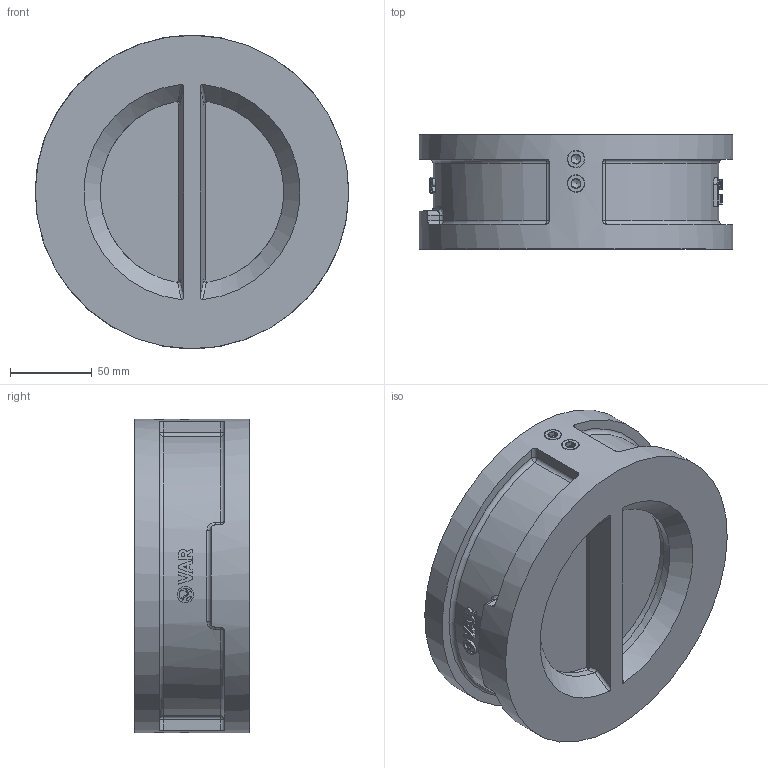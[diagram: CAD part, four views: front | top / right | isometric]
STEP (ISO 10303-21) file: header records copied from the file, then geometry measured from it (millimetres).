
FILE_DESCRIPTION(('STEP AP203'), '1');
FILE_NAME('VAR ZETKA 钺疣蝽 觌囡囗', '', ('UNSPECIFIED'), ('UNSPECIFIED'), 'C3D Converter', 'C3D Toolkit', '');
FILE_SCHEMA(('CONFIG_CONTROL_DESIGN'));
Length unit declared in the file: millimetre
Assembly tree (18 placements, depth 2):
  (unnamed)
    (unnamed)
    (unnamed)  x2
    (unnamed)  x4
    (unnamed)
    (unnamed)  x2
    (unnamed)  x2
    (unnamed)  x2
    (unnamed)  x2
    (unnamed)  x2
Bounding box: 192 x 70 x 192 mm (x, y, z)
Volume: 999544.6 mm3; surface area: 209905.7 mm2
Topology: 33 solids, 33 shells, 568 faces, 1389 edges, 901 vertices
Faces by surface type: plane 265, extrusion 130, cylinder 117, bspline 20, cone 18, sphere 10, torus 8
Full cylindrical faces by diameter (mm): 2.5 x2, 4 x4, 6 x8, 9.72 x16, 9.868 x1, 10 x4, 10.8 x4, 17.22 x6, 136 x1, 145 x2, 192 x1
Entity records: 29736 total; most frequent: CARTESIAN_POINT 16646, ORIENTED_EDGE 2154, DIRECTION 1703, EDGE_CURVE 1077, VERTEX_POINT 723, VECTOR 575, AXIS2_PLACEMENT_3D 564, EDGE_LOOP 536
